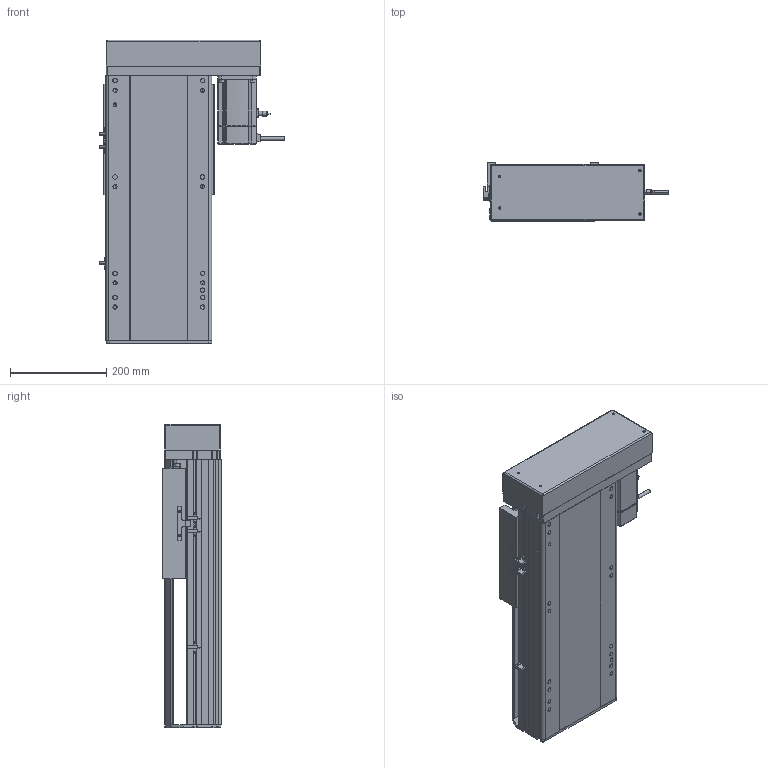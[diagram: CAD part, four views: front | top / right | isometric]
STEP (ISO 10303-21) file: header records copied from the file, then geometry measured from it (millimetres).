
FILE_DESCRIPTION (( 'STEP AP214' ), '1' );
FILE_NAME ('RTH22-XX-250-L-M75-C4.STEP', '2025-10-24T10:55:17', ( 'Microsoft' ), ( 'Microsoft' ), 'SwSTEP 2.0', 'SolidWorks 2018', '' );
FILE_SCHEMA (( 'AUTOMOTIVE_DESIGN' ));
Length unit declared in the file: millimetre
Products named in the file (10): N_RTH22-L-011菁釱^RTH22-XX-XX-L-M75-C4; N_RTH22-L-018裔赽^RTH22-XX-XX-L-M75-C4; N_RTH22-L-004-SFS25賑釱^RTH22-XX-XX-L-M75-C4; N_RTH22-L-008-P75萇儂啣^RTH22-XX-XX-L-M75-C4; N_RTH22-GY-001耜裔^RTH22-XX-XX-L-M75-C4; N_750W萇儂^RTH22-XX-XX-L-M75-C4; RTH22-XX-250-L-M75-C4; N_OMRON EE-SX672 传感器^RTH22-XX-XX-L-M75-C4; N_RTH22-L-007奻裔^RTH22-XX-XX-L-M75-C4; N_RTH22-GY-013外置感应片^RTH22-XX-XX-L-M75-C4
Assembly tree (11 placements, depth 2):
  RTH22-XX-250-L-M75-C4
    N_RTH22-L-011菁釱^RTH22-XX-XX-L-M75-C4
    N_RTH22-GY-001耜裔^RTH22-XX-XX-L-M75-C4
    N_750W萇儂^RTH22-XX-XX-L-M75-C4
    N_RTH22-L-008-P75萇儂啣^RTH22-XX-XX-L-M75-C4
    N_RTH22-L-007奻裔^RTH22-XX-XX-L-M75-C4
    N_RTH22-L-018裔赽^RTH22-XX-XX-L-M75-C4
    N_OMRON EE-SX672 传感器^RTH22-XX-XX-L-M75-C4  x3
    N_RTH22-GY-013外置感应片^RTH22-XX-XX-L-M75-C4
    N_RTH22-L-004-SFS25賑釱^RTH22-XX-XX-L-M75-C4
Bounding box: 384.7 x 122 x 629.7 mm (x, y, z)
Volume: 10135030.2 mm3; surface area: 1247996.5 mm2
Topology: 11 solids, 11 shells, 1552 faces, 4229 edges, 2731 vertices
Faces by surface type: plane 789, cylinder 434, bspline 279, cone 50
Entity records: 38361 total; most frequent: CARTESIAN_POINT 11818, ORIENTED_EDGE 5450, DIRECTION 5095, EDGE_CURVE 2725, VERTEX_POINT 1767, LINE 1711, VECTOR 1711, AXIS2_PLACEMENT_3D 1692
